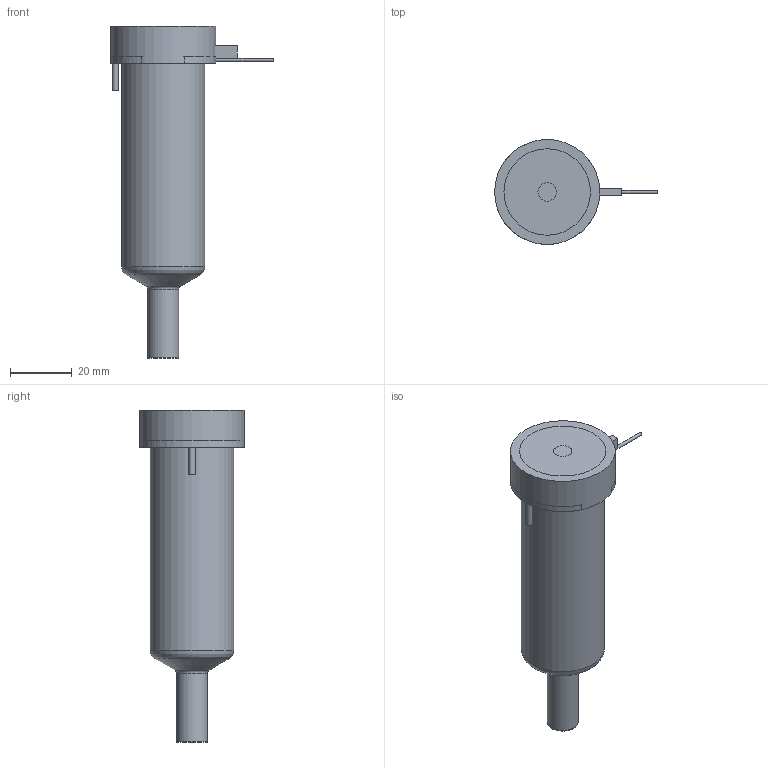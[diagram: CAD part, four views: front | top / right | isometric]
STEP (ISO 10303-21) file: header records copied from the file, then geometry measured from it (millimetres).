
FILE_DESCRIPTION(/* description */ (''),/* implementation_level */ '2;1');
FILE_NAME(/* name */ 'BXYCN13075N4F_200C_a',/* time_stamp */ '2016-02-18T13:15:03+13:00',/* author */ (''),/* organization */ (''),/* preprocessor_version */ 'ST-DEVELOPER v9',/* originating_system */ 'UGS - NX 4.0',/* authorisation */ '');
FILE_SCHEMA (('CONFIG_CONTROL_DESIGN'));
Length unit declared in the file: millimetre
Products named in the file (1): matt4A4Bpkei
Bounding box: 52.65 x 34 x 107.47 mm (x, y, z)
Volume: 89648.8 mm3; surface area: 19262.7 mm2
Topology: 2 solids, 2 shells, 64 faces, 137 edges, 89 vertices
Faces by surface type: plane 29, cylinder 21, torus 7, cone 5, bspline 1, sphere 1
Full cylindrical faces by diameter (mm): 1 x2, 1.8 x1, 2 x1, 4 x1, 6 x1, 9.61 x1, 9.995 x2, 12.6 x1, 22.2 x1, 27 x1, 34 x1
Entity records: 1835 total; most frequent: CARTESIAN_POINT 464, DIRECTION 282, ORIENTED_EDGE 212, AXIS2_PLACEMENT_3D 122, EDGE_CURVE 106, EDGE_LOOP 102, VERTEX_POINT 82, ADVANCED_FACE 64
